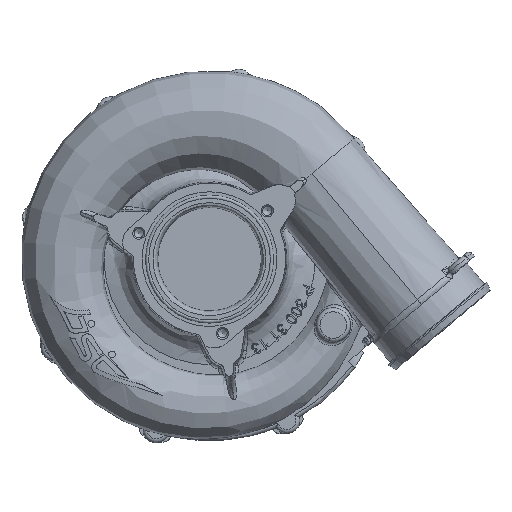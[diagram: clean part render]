
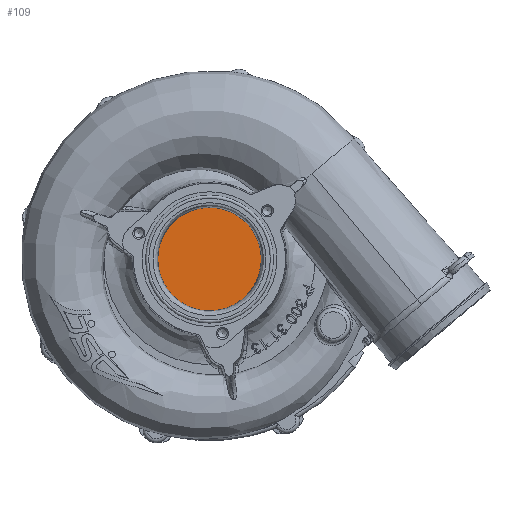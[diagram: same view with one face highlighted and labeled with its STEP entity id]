
A CAD part, front view. The second image highlights one B-rep face of the part: STEP entity #109.
In plain terms, the highlighted planar face has unit normal (0, -1, 0).
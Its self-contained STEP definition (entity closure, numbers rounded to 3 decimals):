
#61=CARTESIAN_POINT('',(9.494,-28.495,1.599));
#62=DIRECTION('',(0.,-1.,0.));
#63=DIRECTION('',(0.0,0.0,-1.0));
#64=AXIS2_PLACEMENT_3D('',#61,#62,#63);
#65=PLANE('',#64);
#66=CARTESIAN_POINT('',(28.646,-28.495,17.602));
#67=VERTEX_POINT('',#66);
#68=CARTESIAN_POINT('',(28.646,-28.495,17.602));
#69=CARTESIAN_POINT('',(26.354,-28.495,20.345));
#70=CARTESIAN_POINT('',(23.548,-28.495,22.614));
#71=CARTESIAN_POINT('',(17.224,-28.495,25.948));
#72=CARTESIAN_POINT('',(13.767,-28.495,26.982));
#73=CARTESIAN_POINT('',(6.651,-28.495,27.666));
#74=CARTESIAN_POINT('',(3.06,-28.495,27.31));
#75=CARTESIAN_POINT('',(-3.783,-28.495,25.241));
#76=CARTESIAN_POINT('',(-6.969,-28.495,23.548));
#77=CARTESIAN_POINT('',(-12.514,-28.495,19.037));
#78=CARTESIAN_POINT('',(-14.82,-28.495,16.261));
#79=CARTESIAN_POINT('',(-18.237,-28.495,9.982));
#80=CARTESIAN_POINT('',(-19.316,-28.495,6.538));
#81=CARTESIAN_POINT('',(-20.093,-28.495,-0.568));
#82=CARTESIAN_POINT('',(-19.784,-28.495,-4.163));
#83=CARTESIAN_POINT('',(-17.806,-28.495,-11.033));
#84=CARTESIAN_POINT('',(-16.155,-28.495,-14.241));
#85=CARTESIAN_POINT('',(-11.716,-28.495,-19.845));
#86=CARTESIAN_POINT('',(-8.971,-28.495,-22.187));
#87=CARTESIAN_POINT('',(-2.737,-28.495,-25.686));
#88=CARTESIAN_POINT('',(0.692,-28.495,-26.81));
#89=CARTESIAN_POINT('',(7.787,-28.495,-27.681));
#90=CARTESIAN_POINT('',(11.386,-28.495,-27.419));
#91=CARTESIAN_POINT('',(18.281,-28.495,-25.531));
#92=CARTESIAN_POINT('',(21.511,-28.495,-23.922));
#93=CARTESIAN_POINT('',(27.173,-28.495,-19.557));
#94=CARTESIAN_POINT('',(29.55,-28.495,-16.843));
#95=CARTESIAN_POINT('',(33.131,-28.495,-10.656));
#96=CARTESIAN_POINT('',(34.3,-28.495,-7.242));
#97=CARTESIAN_POINT('',(35.264,-28.495,-0.158));
#98=CARTESIAN_POINT('',(35.049,-28.495,3.444));
#99=CARTESIAN_POINT('',(33.641,-28.495,8.862));
#100=CARTESIAN_POINT('',(32.917,-28.495,10.758));
#101=CARTESIAN_POINT('',(31.066,-28.495,14.358));
#102=CARTESIAN_POINT('',(29.944,-28.495,16.049));
#103=CARTESIAN_POINT('',(28.646,-28.495,17.602));
#104=B_SPLINE_CURVE_WITH_KNOTS('',3,(#68,#69,#70,#71,#72,#73,#74,#75,#76,#77,#78,#79,#80,#81,#82,#83,#84,#85,#86,#87,#88,#89,#90,#91,#92,#93,#94,#95,#96,#97,#98,#99,#100,#101,#102,#103),.UNSPECIFIED.,.T.,.U.,(4,2,2,2,2,2,2,2,2,2,2,2,2,2,2,2,2,4),(0.0,1.072,2.145,3.217,4.289,5.362,6.434,7.506,8.579,9.651,10.723,11.796,12.868,13.94,15.012,16.085,16.692,17.299),.UNSPECIFIED.);
#105=EDGE_CURVE('',#67,#67,#104,.T.);
#106=ORIENTED_EDGE('',*,*,#105,.T.);
#107=EDGE_LOOP('',(#106));
#108=FACE_OUTER_BOUND('',#107,.T.);
#109=ADVANCED_FACE('',(#108),#65,.T.);
